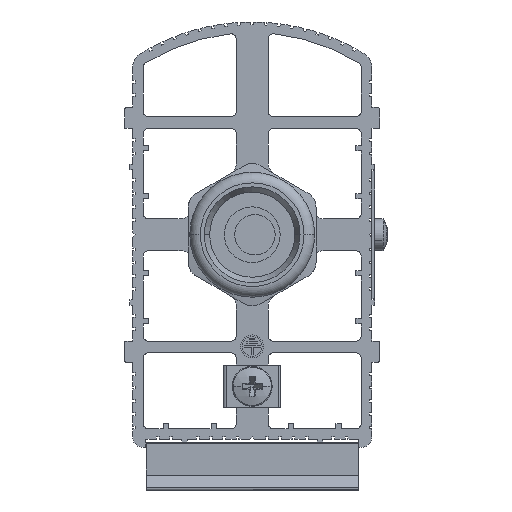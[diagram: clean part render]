
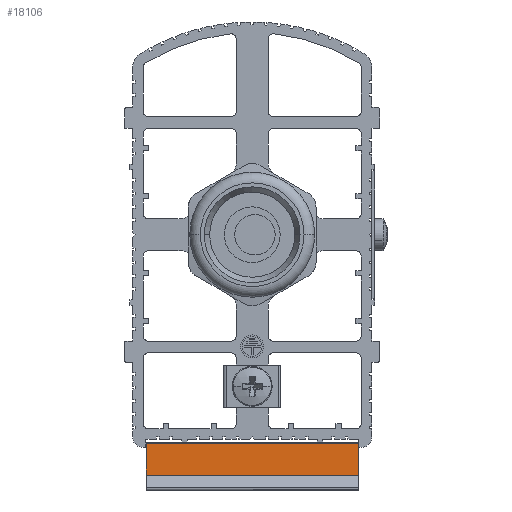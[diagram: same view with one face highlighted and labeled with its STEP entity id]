
A CAD part, front view. The second image highlights one B-rep face of the part: STEP entity #18106.
In plain terms, the highlighted planar face has unit normal (0, -1, 0).
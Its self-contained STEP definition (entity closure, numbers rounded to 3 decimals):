
#268 = ORIENTED_EDGE ( 'NONE', *, *, #16401, .T. ) ;
#388 = AXIS2_PLACEMENT_3D ( 'NONE', #31228, #20850, #4616 ) ;
#1648 = EDGE_LOOP ( 'NONE', ( #34910, #22873, #1761, #268 ) ) ;
#1761 = ORIENTED_EDGE ( 'NONE', *, *, #12084, .T. ) ;
#3085 = VERTEX_POINT ( 'NONE', #5959 ) ;
#3530 = VECTOR ( 'NONE', #24262, 1000. ) ;
#4198 = DIRECTION ( 'NONE',  ( 0., 0., 1. ) ) ;
#4616 = DIRECTION ( 'NONE',  ( 0., 0., -1. ) ) ;
#4847 = CARTESIAN_POINT ( 'NONE',  ( 19.95, 35.14, -45.191 ) ) ;
#5959 = CARTESIAN_POINT ( 'NONE',  ( -19.95, 35.14, -39.3 ) ) ;
#7166 = EDGE_CURVE ( 'NONE', #17107, #3085, #35184, .T. ) ;
#10160 = VECTOR ( 'NONE', #4198, 1000. ) ;
#11590 = CARTESIAN_POINT ( 'NONE',  ( -980.05, 35.14, -39.3 ) ) ;
#11906 = CARTESIAN_POINT ( 'NONE',  ( 19.95, 35.14, -45.191 ) ) ;
#12084 = EDGE_CURVE ( 'NONE', #22787, #20239, #24299, .T. ) ;
#12195 = CARTESIAN_POINT ( 'NONE',  ( -19.95, 35.14, -45.191 ) ) ;
#12724 = LINE ( 'NONE', #23170, #10160 ) ;
#12725 = PLANE ( 'NONE',  #388 ) ;
#14427 = VECTOR ( 'NONE', #28980, 1000. ) ;
#16401 = EDGE_CURVE ( 'NONE', #20239, #17107, #12724, .T. ) ;
#16599 = EDGE_CURVE ( 'NONE', #3085, #22787, #26187, .T. ) ;
#17107 = VERTEX_POINT ( 'NONE', #33975 ) ;
#18106 = ADVANCED_FACE ( 'NONE', ( #20560 ), #12725, .F. ) ;
#18464 = CARTESIAN_POINT ( 'NONE',  ( -19.95, 35.14, -45.271 ) ) ;
#19751 = DIRECTION ( 'NONE',  ( -1., 0., 0. ) ) ;
#20239 = VERTEX_POINT ( 'NONE', #11906 ) ;
#20560 = FACE_OUTER_BOUND ( 'NONE', #1648, .T. ) ;
#20850 = DIRECTION ( 'NONE',  ( 0., 1., 0. ) ) ;
#22787 = VERTEX_POINT ( 'NONE', #12195 ) ;
#22873 = ORIENTED_EDGE ( 'NONE', *, *, #16599, .T. ) ;
#23170 = CARTESIAN_POINT ( 'NONE',  ( 19.95, 35.14, -45.271 ) ) ;
#24262 = DIRECTION ( 'NONE',  ( 1., 0., 0. ) ) ;
#24299 = LINE ( 'NONE', #4847, #3530 ) ;
#26187 = LINE ( 'NONE', #18464, #14427 ) ;
#28980 = DIRECTION ( 'NONE',  ( 0., 0., -1. ) ) ;
#30002 = VECTOR ( 'NONE', #19751, 1000. ) ;
#31228 = CARTESIAN_POINT ( 'NONE',  ( -980.05, 35.14, -45.271 ) ) ;
#33975 = CARTESIAN_POINT ( 'NONE',  ( 19.95, 35.14, -39.3 ) ) ;
#34910 = ORIENTED_EDGE ( 'NONE', *, *, #7166, .T. ) ;
#35184 = LINE ( 'NONE', #11590, #30002 ) ;
